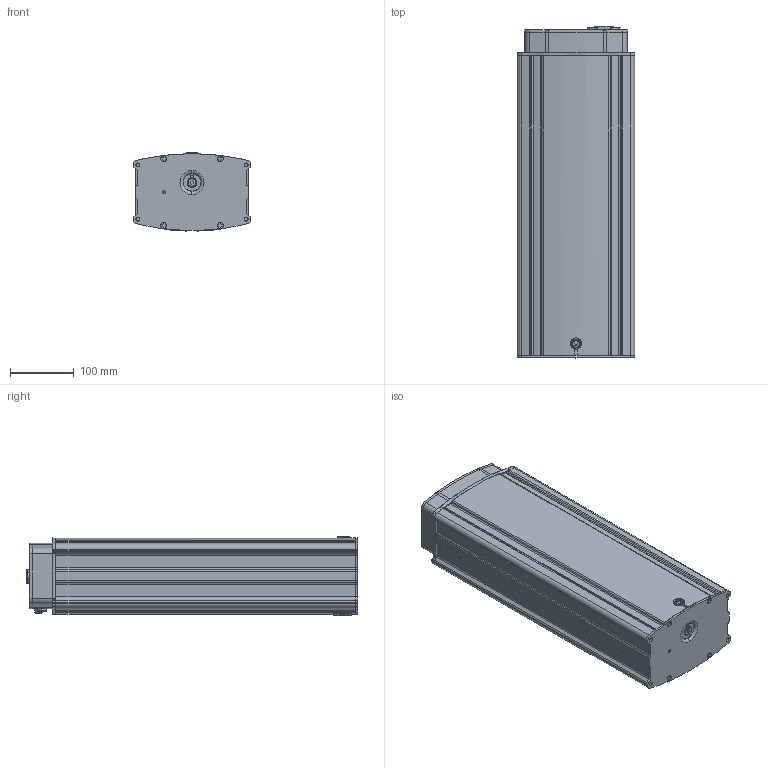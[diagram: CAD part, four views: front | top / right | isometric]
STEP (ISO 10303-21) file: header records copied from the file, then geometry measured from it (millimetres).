
FILE_DESCRIPTION (( 'STEP AP214' ), '1' );
FILE_NAME ('TL52_STP.STEP', '2020-10-30T04:35:50', ( '' ), ( '' ), 'SwSTEP 2.0', 'SolidWorks 2015', '' );
FILE_SCHEMA (( 'AUTOMOTIVE_DESIGN' ));
Length unit declared in the file: millimetre
Products named in the file (1): TL52_STP
Bounding box: 184.4 x 521 x 122.85 mm (x, y, z)
Volume: 9877406.8 mm3; surface area: 501566.6 mm2
Topology: 16 solids, 16 shells, 1057 faces, 2782 edges, 1835 vertices
Faces by surface type: plane 633, cylinder 281, bspline 81, torus 38, cone 24
Entity records: 37771 total; most frequent: CARTESIAN_POINT 11277, ORIENTED_EDGE 5564, DIRECTION 5231, EDGE_CURVE 2782, LINE 1907, VECTOR 1907, VERTEX_POINT 1835, AXIS2_PLACEMENT_3D 1662
